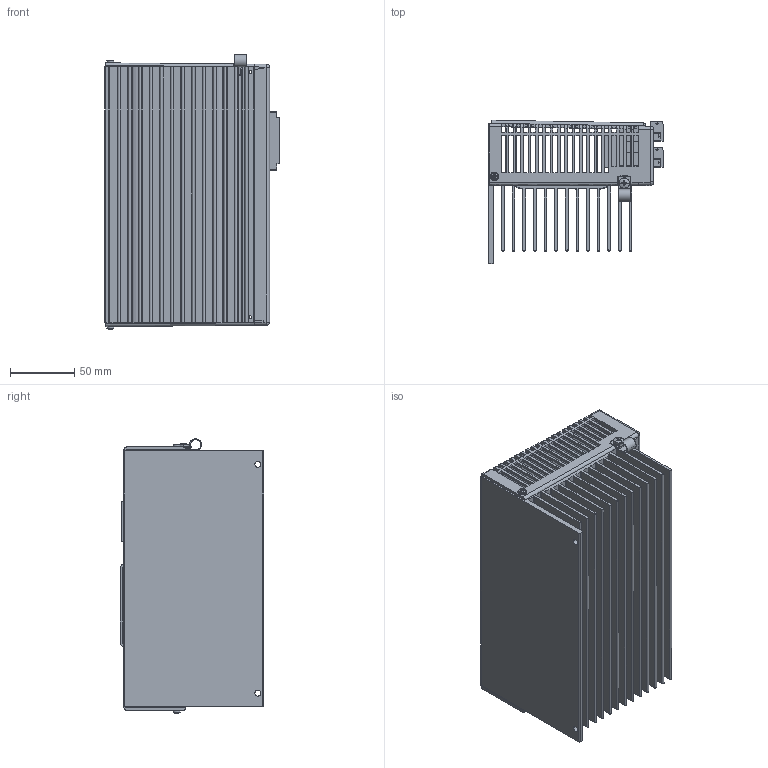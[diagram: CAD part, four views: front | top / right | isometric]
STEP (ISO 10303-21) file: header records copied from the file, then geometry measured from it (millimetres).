
FILE_DESCRIPTION((''),'2;1');
FILE_NAME('1300','2007-05-01T',('JOHNB'),('Ultra Tool'),'PRO/ENGINEER BY PARAMETRIC TECHNOLOGY CORPORATION, 2005380','PRO/ENGINEER BY PARAMETRIC TECHNOLOGY CORPORATION, 2005380','');
FILE_SCHEMA(('CONFIG_CONTROL_DESIGN'));
Products named in the file (1): 1300
Bounding box: 135.92 x 111.33 x 213.39 mm (x, y, z)
Volume: 625680.3 mm3; surface area: 468222.6 mm2
Topology: 11 solids, 13 shells, 1472 faces, 4266 edges, 2737 vertices
Faces by surface type: plane 916, cylinder 402, bspline 86, cone 32, sphere 19, extrusion 9, torus 8
Entity records: 63157 total; most frequent: CARTESIAN_POINT 15331, ORIENTED_EDGE 8388, DIRECTION 7248, EDGE_CURVE 4194, VECTOR 3012, LINE 3003, VERTEX_POINT 2794, AXIS2_PLACEMENT_3D 2118
